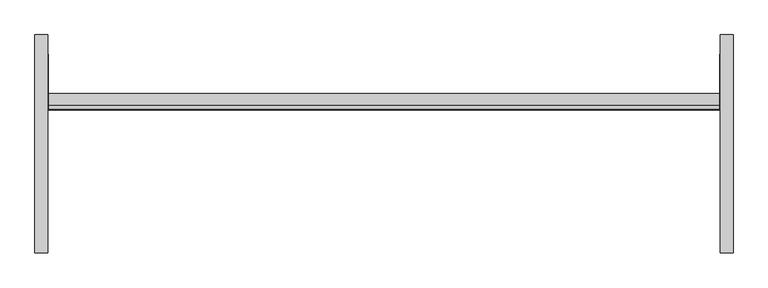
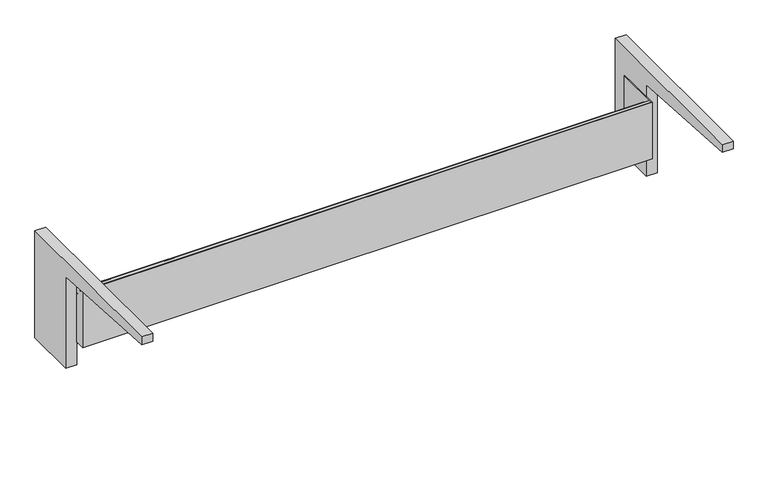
"""IFC4 building model written with IfcOpenShell, lengths in millimetres: furniture geometry."""

from ifc_helpers import new_model, si_unit, point, frame, frame_2d, origin, place, context, project, spatial, polyline, circle_curve, trimmed, segment, composite_curve, outline, extrude, source, transform, mapped, element, save


def furniture_88dc2ca2(model_context):
    return source(origin(), model_context, "Body", "SweptSolid", [
        extrude(outline(composite_curve([segment(polyline([(177.8, 882.65), (177.8, 533.4), (12.7, 533.4), (12.7, 831.85)]), True, "CONTINUOUS"), segment(trimmed(circle_curve(frame_2d((-388.143904, -2317.7524637)), 3175.0073252), [point((12.7, 831.85))], [point((-393.7, 857.25))], True, "CARTESIAN"), True, "CONTINUOUS"), segment(polyline([(-393.7, 857.25), (-393.7, 882.65), (177.8, 882.65)]), True, "CONTINUOUS")], self_intersect=False)), frame((879.475, 0.0, 0.0), z_axis=(1.0, 0.0, 0.0), x_axis=(0.0, 1.0, 0.0)), (0.0, 0.0, 1.0), 33.3375),
        extrude(outline(composite_curve([segment(polyline([(-393.7, 857.25), (-393.7, 882.65), (177.8, 882.65), (177.8, 533.4), (12.7, 533.4), (12.7, 831.85)]), True, "CONTINUOUS"), segment(trimmed(circle_curve(frame_2d((-388.143904, -2317.7524637)), 3175.0073252), [point((12.7, 831.85))], [point((-393.7, 857.25))], True, "CARTESIAN"), True, "CONTINUOUS")], self_intersect=False)), frame((-912.8125, 0.0, 0.0), z_axis=(1.0, 0.0, 0.0), x_axis=(0.0, 1.0, 0.0)), (0.0, 0.0, 1.0), 33.3375),
        extrude(outline(polyline([(-877.8875, -17.4625), (877.8875, -17.4625), (877.8875, 127.0), (879.475, 127.0), (879.475, -19.05), (-879.475, -19.05), (-879.475, 127.0), (-877.8875, 127.0), (-877.8875, -17.4625)])), frame((0.0, 0.0, 608.9396), z_axis=(0.0, 0.0, 1.0), x_axis=(1.0, 0.0, 0.0)), (0.0, 0.0, 1.0), 184.15),
        extrude(outline(polyline([(-7.9057553, 792.29585), (-17.4625, 792.29585), (-17.4625, 770.07085), (24.1300012, 770.07085), (24.1300012, 608.9396), (-19.05, 608.9396), (-19.05, 793.0896), (-7.1120053, 793.0896), (-7.1120053, 786.0791994), (-7.9057553, 786.0791994), (-7.9057553, 792.29585)])), frame((-879.475, 0.0, 0.0), z_axis=(1.0, 0.0, 0.0), x_axis=(0.0, 1.0, 0.0)), (0.0, 0.0, 1.0), 1758.95),
    ])


if __name__ == "__main__":
    model = new_model("IFC4")
    model_context = context("Model", 3, world=origin())
    ifc_project = project(units=[si_unit("LENGTHUNIT", "METRE", prefix="MILLI")], contexts=[model_context])
    site = spatial("IfcSite", under=ifc_project)
    building = spatial("IfcBuilding", under=site)
    placement = place(None, origin())
    furniture_shape = furniture_88dc2ca2(model_context)
    element("IfcFurniture", 1, ObjectType="HermanMiller_CoStruc_C2140W_WorkSurfaceSupport_ComponentAdaptor : 14\"H x 24\"D x 72\"W", at=placement, inside=building, context=model_context, shape_type="MappedRepresentation", body=[
        mapped(furniture_shape, transform((0.0, 0.0, 0.0), x_axis=(1.0, 0.0, 0.0), y_axis=(0.0, 1.0, 0.0), z_axis=(0.0, 0.0, 1.0))),
    ])
    save(model, "model.ifc")
